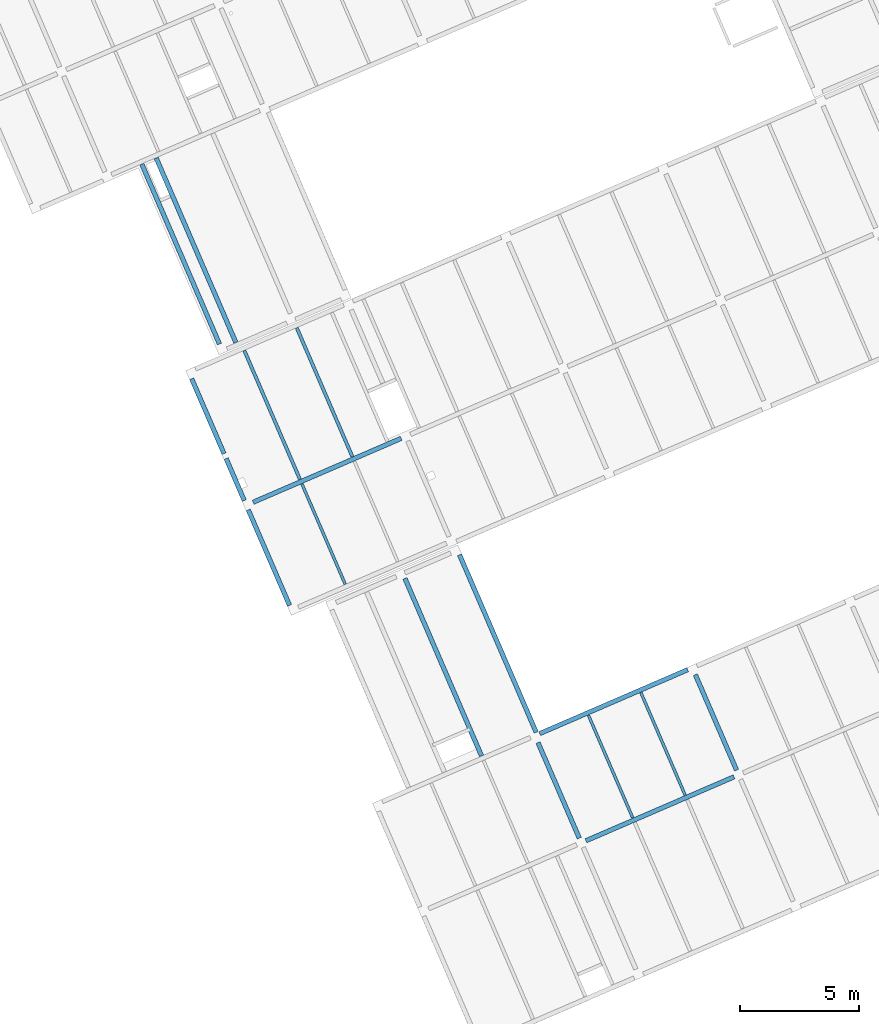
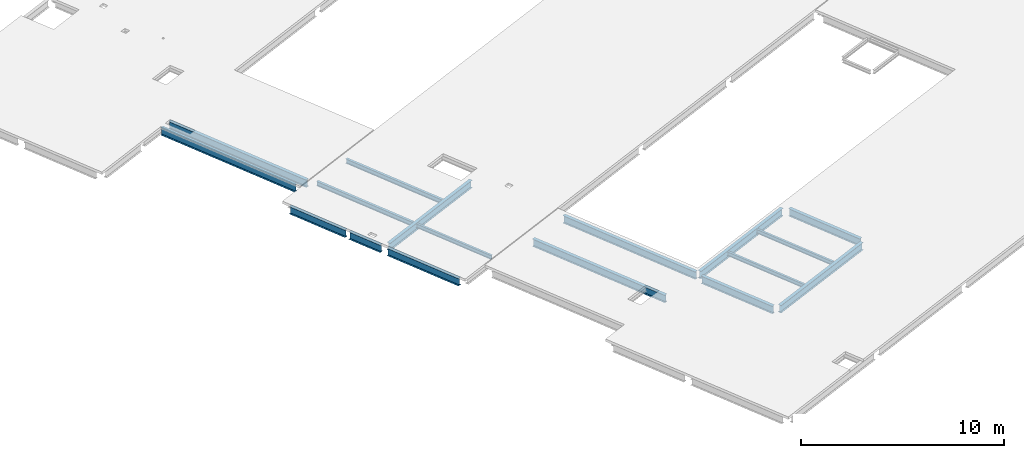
# One storey, part 2 of 15: 17 beams.
"""IFC4 building model written with IfcOpenShell, lengths in metres."""

from ifc_helpers import new_model, entity, si_unit, converted_unit, derived_unit, direction, frame, origin, place, context, subcontext, project, spatial, line, arc, indexed_curve, outline, extrude, source, transform, mapped, material, type_object, type_shapes, element, save


model = new_model("IFC4")

# Units and contexts
model_context = context("Model", 3, precision=1e-05, world=origin(), true_north=direction((6.12323399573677e-17, 1.0)))
body_context = subcontext(model_context, "Body", "Model", "MODEL_VIEW")
ifc_project = project(units=[si_unit("LENGTHUNIT", "METRE"), si_unit("AREAUNIT", "SQUARE_METRE"), si_unit("VOLUMEUNIT", "CUBIC_METRE"), converted_unit("PLANEANGLEUNIT", "DEGREE", entity("IfcPlaneAngleMeasure", 0.0174532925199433), si_unit("PLANEANGLEUNIT", "RADIAN"), dimensions=[0, 0, 0, 0, 0, 0, 0]), si_unit("MASSUNIT", "GRAM", prefix="KILO"), derived_unit("MOMENTOFINERTIAUNIT", [(si_unit("LENGTHUNIT", "METRE"), 4)]), derived_unit("LINEARFORCEUNIT", [(si_unit("MASSUNIT", "GRAM", prefix="KILO"), 1), (si_unit("TIMEUNIT", "SECOND"), -2)]), derived_unit("WARPINGCONSTANTUNIT", [(si_unit("LENGTHUNIT", "METRE"), 6)]), derived_unit("THERMALTRANSMITTANCEUNIT", [(si_unit("MASSUNIT", "GRAM", prefix="KILO"), 1), (si_unit("THERMODYNAMICTEMPERATUREUNIT", "KELVIN"), -1), (si_unit("TIMEUNIT", "SECOND"), -3)]), derived_unit("USERDEFINED", [(si_unit("MASSUNIT", "GRAM", prefix="KILO"), 1), (si_unit("TIMEUNIT", "SECOND"), -2), (si_unit("THERMODYNAMICTEMPERATUREUNIT", "KELVIN"), -1)]), derived_unit("THERMALRESISTANCEUNIT", [(si_unit("MASSUNIT", "GRAM", prefix="KILO"), -1), (si_unit("TIMEUNIT", "SECOND"), 3), (si_unit("THERMODYNAMICTEMPERATUREUNIT", "KELVIN"), 1)])], contexts=[model_context])

# Site, building, storey
site_placement = place(None, origin())
site = spatial("IfcSite", under=ifc_project, at=site_placement, Name="Default", CompositionType="ELEMENT")
building_placement = place(site_placement, frame((12.6613425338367, -82.5732315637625, 317.15), z_axis=(0.0, 0.0, 1.0), x_axis=(-0.396377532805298, 0.918087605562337, 0.0)))
building = spatial("IfcBuilding", under=site, at=building_placement, Name="CESFAM Coyhaique", CompositionType="ELEMENT")
storey_placement = place(building_placement, frame((0.0, 0.0, 8.45000000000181)))
storey = spatial("IfcBuildingStorey", under=building, at=storey_placement, Name="Nivel 3", CompositionType="ELEMENT", Elevation=8.45000000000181)

# Beams
ifc_material = material(Name="Steel, 45-345", Category="Metal")
beam_type_1 = type_object("IfcBeamType", Name="M_W Shapes:W450X190mm", PredefinedType="BEAM", material=ifc_material)
shared_shape_1 = source(origin(), body_context, "Body", "SweptSolid", [
    extrude(outline(indexed_curve([(-0.224999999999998, -0.0950000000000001), (-0.215349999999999, -0.0949999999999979), (-0.215349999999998, -0.0105699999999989), (-0.213109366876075, -0.00516063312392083), (-0.207699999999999, -0.00291999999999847), (0.207700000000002, -0.00291999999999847), (0.213109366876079, -0.00516063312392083), (0.215350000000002, -0.0105699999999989), (0.215350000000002, -0.0950000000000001), (0.225000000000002, -0.0950000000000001), (0.225000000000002, 0.0950000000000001), (0.215350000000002, 0.0950000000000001), (0.215350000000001, 0.0105700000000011), (0.213109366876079, 0.00516063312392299), (0.207700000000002, 0.00292000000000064), (-0.207699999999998, 0.00292000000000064), (-0.213109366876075, 0.00516063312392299), (-0.215349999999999, 0.0105700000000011), (-0.215349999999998, 0.0950000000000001), (-0.224999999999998, 0.0950000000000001)], segments=[line(1, 2, 3), arc(3, 4, 5), line(5, 6), arc(6, 7, 8), line(8, 9, 10, 11, 12, 13), arc(13, 14, 15), line(15, 16), arc(16, 17, 18), line(18, 19, 20, 1)], self_intersect=False)), frame((10.3815534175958, 10.0028504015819, 8.07500000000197), z_axis=(1.0, 0.0, 0.0), x_axis=(0.0, 0.0, -1.0)), (0.0, 0.0, 1.0), 4.3746),
])
type_shapes(beam_type_1, [shared_shape_1])
beam_1_placement = place(storey_placement, frame((0.0, 0.0, -8.45000000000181)))
element("IfcBeam", 1, at=beam_1_placement, inside=storey, type_object=beam_type_1, Name="M_W Shapes:W450X190mm", ObjectType="M_W Shapes:W450X190mm", PredefinedType="BEAM", context=body_context, shape_type="MappedRepresentation", body=[
    mapped(shared_shape_1, transform((0.0, 0.0, 0.0), scale=1.0)),
])
beam_type_2 = type_object("IfcBeamType", Name="M_W Shapes:W450X190mm", PredefinedType="BEAM", material=ifc_material)
shared_shape_2 = source(origin(), body_context, "Body", "SweptSolid", [
    extrude(outline(indexed_curve([(-0.224999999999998, -0.0950000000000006), (-0.215349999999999, -0.0950000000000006), (-0.215349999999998, -0.0105700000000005), (-0.213109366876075, -0.00516063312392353), (-0.207699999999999, -0.00292000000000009), (0.207700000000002, -0.00292000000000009), (0.213109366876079, -0.00516063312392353), (0.215350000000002, -0.0105700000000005), (0.215350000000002, -0.0950000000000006), (0.225000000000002, -0.0950000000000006), (0.225000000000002, 0.0950000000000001), (0.215350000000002, 0.0950000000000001), (0.215350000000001, 0.01057), (0.213109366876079, 0.00516063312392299), (0.207700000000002, 0.00291999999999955), (-0.207699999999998, 0.00291999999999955), (-0.213109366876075, 0.00516063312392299), (-0.215349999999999, 0.01057), (-0.215349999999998, 0.094999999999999), (-0.224999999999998, 0.0949999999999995)], segments=[line(1, 2, 3), arc(3, 4, 5), line(5, 6), arc(6, 7, 8), line(8, 9, 10, 11, 12, 13), arc(13, 14, 15), line(15, 16), arc(16, 17, 18), line(18, 19, 20, 1)], self_intersect=False)), frame((10.3815534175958, 2.8028504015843, 8.07500000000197), z_axis=(1.0, 0.0, 0.0), x_axis=(0.0, 0.0, -1.0)), (0.0, 0.0, 1.0), 4.3746),
])
type_shapes(beam_type_2, [shared_shape_2])
beam_2_placement = place(storey_placement, frame((0.0, 0.0, -8.45000000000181)))
element("IfcBeam", 2, at=beam_2_placement, inside=storey, type_object=beam_type_2, Name="M_W Shapes:W450X190mm", ObjectType="M_W Shapes:W450X190mm", PredefinedType="BEAM", context=body_context, shape_type="MappedRepresentation", body=[
    mapped(shared_shape_2, transform((0.0, 0.0, 0.0), scale=1.0)),
])
beam_type_3 = type_object("IfcBeamType", Name="M_W Shapes:W450X190mm", PredefinedType="BEAM", material=ifc_material)
shared_shape_3 = source(origin(), body_context, "Body", "SweptSolid", [
    extrude(outline(indexed_curve([(-0.0950000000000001, -0.225000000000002), (0.0950000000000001, -0.225000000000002), (0.0950000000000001, -0.215350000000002), (0.0105700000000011, -0.215350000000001), (0.00516063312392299, -0.213109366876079), (0.00292000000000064, -0.207700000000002), (0.00292000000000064, 0.207699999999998), (0.00516063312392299, 0.213109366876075), (0.0105700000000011, 0.215349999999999), (0.0950000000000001, 0.215349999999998), (0.0950000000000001, 0.224999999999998), (-0.0950000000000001, 0.224999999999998), (-0.0949999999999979, 0.215349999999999), (-0.0105699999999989, 0.215349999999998), (-0.00516063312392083, 0.213109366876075), (-0.00291999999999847, 0.207699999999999), (-0.00291999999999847, -0.207700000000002), (-0.00516063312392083, -0.213109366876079), (-0.0105699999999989, -0.215350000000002), (-0.0950000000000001, -0.215350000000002)], segments=[line(1, 2, 3, 4), arc(4, 5, 6), line(6, 7), arc(7, 8, 9), line(9, 10, 11, 12, 13, 14), arc(14, 15, 16), line(16, 17), arc(17, 18, 19), line(19, 20, 1)], self_intersect=False)), frame((10.1688534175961, 3.0155504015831, 8.07500000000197), z_axis=(0.0, 1.0, 0.0), x_axis=(-1.0, 0.0, 0.0)), (0.0, 0.0, 1.0), 6.7746),
])
type_shapes(beam_type_3, [shared_shape_3])
beam_3_placement = place(storey_placement, frame((0.0, 0.0, -8.45000000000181)))
element("IfcBeam", 3, at=beam_3_placement, inside=storey, type_object=beam_type_3, Name="M_W Shapes:W450X190mm", ObjectType="M_W Shapes:W450X190mm", PredefinedType="BEAM", context=body_context, shape_type="MappedRepresentation", body=[
    mapped(shared_shape_3, transform((0.0, 0.0, 0.0), scale=1.0)),
])
beam_type_4 = type_object("IfcBeamType", Name="M_W Shapes:W450X190mm", PredefinedType="BEAM", material=ifc_material)
shared_shape_4 = source(origin(), body_context, "Body", "SweptSolid", [
    extrude(outline(indexed_curve([(-0.0950000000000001, -0.225000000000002), (0.0950000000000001, -0.225000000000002), (0.0950000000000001, -0.215350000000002), (0.0105700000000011, -0.215350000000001), (0.00516063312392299, -0.213109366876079), (0.00292000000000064, -0.207700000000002), (0.00292000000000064, 0.207699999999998), (0.00516063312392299, 0.213109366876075), (0.0105700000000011, 0.215349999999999), (0.0950000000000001, 0.215349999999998), (0.0950000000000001, 0.224999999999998), (-0.0950000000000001, 0.224999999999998), (-0.0949999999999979, 0.215349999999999), (-0.0105699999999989, 0.215349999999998), (-0.00516063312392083, 0.213109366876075), (-0.00291999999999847, 0.207699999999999), (-0.00291999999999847, -0.207700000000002), (-0.00516063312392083, -0.213109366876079), (-0.0105699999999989, -0.215350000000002), (-0.0950000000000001, -0.215350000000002)], segments=[line(1, 2, 3, 4), arc(4, 5, 6), line(6, 7), arc(7, 8, 9), line(9, 10, 11, 12, 13, 14), arc(14, 15, 16), line(16, 17), arc(17, 18, 19), line(19, 20, 1)], self_intersect=False)), frame((15.0738534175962, 3.0155504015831, 8.07500000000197), z_axis=(0.0, 1.0, 0.0), x_axis=(-1.0, 0.0, 0.0)), (0.0, 0.0, 1.0), 6.7746),
])
type_shapes(beam_type_4, [shared_shape_4])
beam_4_placement = place(storey_placement, frame((0.0, 0.0, -8.45000000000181)))
element("IfcBeam", 4, at=beam_4_placement, inside=storey, type_object=beam_type_4, Name="M_W Shapes:W450X190mm", ObjectType="M_W Shapes:W450X190mm", PredefinedType="BEAM", context=body_context, shape_type="MappedRepresentation", body=[
    mapped(shared_shape_4, transform((0.0, 0.0, 0.0), scale=1.0)),
])
beam_type_5 = type_object("IfcBeamType", Name="M_W Shapes:W450X190mm", PredefinedType="BEAM", material=ifc_material)
shared_shape_5 = source(origin(), body_context, "Body", "SweptSolid", [
    extrude(outline(indexed_curve([(-0.224999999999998, -0.0950000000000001), (-0.215349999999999, -0.0949999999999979), (-0.215349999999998, -0.0105699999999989), (-0.213109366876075, -0.00516063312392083), (-0.207699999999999, -0.00291999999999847), (0.207700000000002, -0.00291999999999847), (0.213109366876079, -0.00516063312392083), (0.215350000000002, -0.0105699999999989), (0.215350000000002, -0.0950000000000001), (0.225000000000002, -0.0950000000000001), (0.225000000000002, 0.0950000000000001), (0.215350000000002, 0.0950000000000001), (0.215350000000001, 0.0105700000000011), (0.213109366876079, 0.00516063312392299), (0.207700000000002, 0.00292000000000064), (-0.207699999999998, 0.00292000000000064), (-0.213109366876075, 0.00516063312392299), (-0.215349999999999, 0.0105700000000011), (-0.215349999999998, 0.0950000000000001), (-0.224999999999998, 0.0950000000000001)], segments=[line(1, 2, 3), arc(3, 4, 5), line(5, 6), arc(6, 7, 8), line(8, 9, 10, 11, 12, 13), arc(13, 14, 15), line(15, 16), arc(16, 17, 18), line(18, 19, 20, 1)], self_intersect=False)), frame((15.1815534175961, 9.9028504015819, 8.07500000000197), z_axis=(1.0, 0.0, 0.0), x_axis=(0.0, 0.0, -1.0)), (0.0, 0.0, 1.0), 8.1246),
])
type_shapes(beam_type_5, [shared_shape_5])
beam_5_placement = place(storey_placement, frame((0.0, 0.0, -8.45000000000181)))
element("IfcBeam", 5, at=beam_5_placement, inside=storey, type_object=beam_type_5, Name="M_W Shapes:W450X190mm", ObjectType="M_W Shapes:W450X190mm", PredefinedType="BEAM", context=body_context, shape_type="MappedRepresentation", body=[
    mapped(shared_shape_5, transform((0.0, 0.0, 0.0), scale=1.0)),
])
beam_type_6 = type_object("IfcBeamType", Name="M_W Shapes:W450X190mm", PredefinedType="BEAM", material=ifc_material)
shared_shape_6 = source(origin(), body_context, "Body", "SweptSolid", [
    extrude(outline(indexed_curve([(-0.224999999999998, -0.0950000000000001), (-0.215349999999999, -0.0949999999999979), (-0.215349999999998, -0.0105699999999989), (-0.213109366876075, -0.00516063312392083), (-0.207699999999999, -0.00291999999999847), (0.207700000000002, -0.00291999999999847), (0.213109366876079, -0.00516063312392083), (0.215350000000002, -0.0105699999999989), (0.215350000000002, -0.0950000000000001), (0.225000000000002, -0.0950000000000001), (0.225000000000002, 0.0950000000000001), (0.215350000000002, 0.0950000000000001), (0.215350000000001, 0.0105700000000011), (0.213109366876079, 0.00516063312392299), (0.207700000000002, 0.00292000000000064), (-0.207699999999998, 0.00292000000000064), (-0.213109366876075, 0.00516063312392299), (-0.215349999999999, 0.0105700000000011), (-0.215349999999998, 0.0950000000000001), (-0.224999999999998, 0.0950000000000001)], segments=[line(1, 2, 3), arc(3, 4, 5), line(5, 6), arc(6, 7, 8), line(8, 9, 10, 11, 12, 13), arc(13, 14, 15), line(15, 16), arc(16, 17, 18), line(18, 19, 20, 1)], self_intersect=False)), frame((24.1815534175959, 17.3028504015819, 8.07500000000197), z_axis=(1.0, 0.0, 0.0), x_axis=(0.0, 0.0, -1.0)), (0.0, 0.0, 1.0), 4.3746),
])
type_shapes(beam_type_6, [shared_shape_6])
beam_6_placement = place(storey_placement, frame((0.0, 0.0, -8.45000000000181)))
element("IfcBeam", 6, at=beam_6_placement, inside=storey, type_object=beam_type_6, Name="M_W Shapes:W450X190mm", ObjectType="M_W Shapes:W450X190mm", PredefinedType="BEAM", context=body_context, shape_type="MappedRepresentation", body=[
    mapped(shared_shape_6, transform((0.0, 0.0, 0.0), scale=1.0)),
])
beam_type_7 = type_object("IfcBeamType", Name="M_W Shapes:W450X190mm", PredefinedType="BEAM", material=ifc_material)
shared_shape_7 = source(origin(), body_context, "Body", "SweptSolid", [
    extrude(outline(indexed_curve([(-0.224999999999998, -0.0950000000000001), (-0.215349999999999, -0.0949999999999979), (-0.215349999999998, -0.0105699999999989), (-0.213109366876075, -0.00516063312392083), (-0.207699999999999, -0.00291999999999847), (0.207700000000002, -0.00291999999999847), (0.213109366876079, -0.00516063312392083), (0.215350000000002, -0.0105699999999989), (0.215350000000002, -0.0950000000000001), (0.225000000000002, -0.0950000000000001), (0.225000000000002, 0.0950000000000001), (0.215350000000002, 0.0950000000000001), (0.215350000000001, 0.0105700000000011), (0.213109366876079, 0.00516063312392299), (0.207700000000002, 0.00292000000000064), (-0.207699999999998, 0.00292000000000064), (-0.213109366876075, 0.00516063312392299), (-0.215349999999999, 0.0105700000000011), (-0.215349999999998, 0.0950000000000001), (-0.224999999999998, 0.0950000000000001)], segments=[line(1, 2, 3), arc(3, 4, 5), line(5, 6), arc(6, 7, 8), line(8, 9, 10, 11, 12, 13), arc(13, 14, 15), line(15, 16), arc(16, 17, 18), line(18, 19, 20, 1)], self_intersect=False)), frame((28.9815534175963, 17.3028504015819, 8.07500000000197), z_axis=(1.0, 0.0, 0.0), x_axis=(0.0, 0.0, -1.0)), (0.0, 0.0, 1.0), 1.9246),
])
type_shapes(beam_type_7, [shared_shape_7])
beam_7_placement = place(storey_placement, frame((0.0, 0.0, -8.45000000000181)))
element("IfcBeam", 7, at=beam_7_placement, inside=storey, type_object=beam_type_7, Name="M_W Shapes:W450X190mm", ObjectType="M_W Shapes:W450X190mm", PredefinedType="BEAM", context=body_context, shape_type="MappedRepresentation", body=[
    mapped(shared_shape_7, transform((0.0, 0.0, 0.0), scale=1.0)),
])
beam_type_8 = type_object("IfcBeamType", Name="M_W Shapes:W450X190mm", PredefinedType="BEAM", material=ifc_material)
shared_shape_8 = source(origin(), body_context, "Body", "SweptSolid", [
    extrude(outline(indexed_curve([(-0.224999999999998, -0.0950000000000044), (-0.215349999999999, -0.0950000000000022), (-0.215349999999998, -0.0105700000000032), (-0.213109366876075, -0.00516063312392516), (-0.207699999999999, -0.0029200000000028), (0.207700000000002, -0.0029200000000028), (0.213109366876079, -0.00516063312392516), (0.215350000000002, -0.0105700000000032), (0.215350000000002, -0.0950000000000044), (0.225000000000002, -0.0950000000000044), (0.225000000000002, 0.0949999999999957), (0.215350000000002, 0.0949999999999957), (0.215350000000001, 0.0105699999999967), (0.213109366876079, 0.00516063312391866), (0.207700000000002, 0.0029199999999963), (-0.207699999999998, 0.0029199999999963), (-0.213109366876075, 0.00516063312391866), (-0.215349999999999, 0.0105699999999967), (-0.215349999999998, 0.0949999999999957), (-0.224999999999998, 0.0949999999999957)], segments=[line(1, 2, 3), arc(3, 4, 5), line(5, 6), arc(6, 7, 8), line(8, 9, 10, 11, 12, 13), arc(13, 14, 15), line(15, 16), arc(16, 17, 18), line(18, 19, 20, 1)], self_intersect=False)), frame((35.4315534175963, 15.6528492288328, 8.07500000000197), z_axis=(1.0, 0.0, 0.0), x_axis=(0.0, 0.0, -1.0)), (0.0, 0.0, 1.0), 8.2296),
])
type_shapes(beam_type_8, [shared_shape_8])
beam_8_placement = place(storey_placement, frame((0.0, 0.0, -8.45000000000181)))
element("IfcBeam", 8, at=beam_8_placement, inside=storey, type_object=beam_type_8, Name="M_W Shapes:W450X190mm", ObjectType="M_W Shapes:W450X190mm", PredefinedType="BEAM", context=body_context, shape_type="MappedRepresentation", body=[
    mapped(shared_shape_8, transform((0.0, 0.0, 0.0), scale=1.0)),
])
beam_type_9 = type_object("IfcBeamType", Name="M_W Shapes:W450X190mm", PredefinedType="BEAM", material=ifc_material)
shared_shape_9 = source(origin(), body_context, "Body", "SweptSolid", [
    extrude(outline(indexed_curve([(-0.0949999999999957, -0.225000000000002), (0.0950000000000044, -0.225000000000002), (0.0950000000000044, -0.215350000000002), (0.0105700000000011, -0.215350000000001), (0.00516063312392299, -0.21310936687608), (0.0029200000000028, -0.207700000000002), (0.0029200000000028, 0.207699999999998), (0.00516063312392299, 0.213109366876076), (0.0105700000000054, 0.215349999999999), (0.0950000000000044, 0.215349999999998), (0.0950000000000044, 0.224999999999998), (-0.0949999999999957, 0.224999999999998), (-0.0949999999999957, 0.215349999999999), (-0.0105699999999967, 0.215349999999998), (-0.00516063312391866, 0.213109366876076), (-0.00291999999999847, 0.207699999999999), (-0.00291999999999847, -0.207700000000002), (-0.00516063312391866, -0.21310936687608), (-0.0105699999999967, -0.215350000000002), (-0.0949999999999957, -0.215350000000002)], segments=[line(1, 2, 3, 4), arc(4, 5, 6), line(6, 7), arc(7, 8, 9), line(9, 10, 11, 12, 13, 14), arc(14, 15, 16), line(16, 17), arc(17, 18, 19), line(19, 20, 1)], self_intersect=False)), frame((28.7688534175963, 10.2155504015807, 8.07500000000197), z_axis=(0.0, 1.0, 0.0), x_axis=(-1.0, 0.0, 0.0)), (0.0, 0.0, 1.0), 6.7746),
])
type_shapes(beam_type_9, [shared_shape_9])
beam_9_placement = place(storey_placement, frame((0.0, 0.0, -8.45000000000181)))
element("IfcBeam", 9, at=beam_9_placement, inside=storey, type_object=beam_type_9, Name="M_W Shapes:W450X190mm", ObjectType="M_W Shapes:W450X190mm", PredefinedType="BEAM", context=body_context, shape_type="MappedRepresentation", body=[
    mapped(shared_shape_9, transform((0.0, 0.0, 0.0), scale=1.0)),
])
beam_type_10 = type_object("IfcBeamType", Name="M_W Shapes:W450X190mm", PredefinedType="BEAM", material=ifc_material)
shared_shape_10 = source(origin(), body_context, "Body", "SweptSolid", [
    extrude(outline(indexed_curve([(-0.224999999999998, -0.0950000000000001), (-0.215349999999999, -0.0950000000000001), (-0.215349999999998, -0.0105699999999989), (-0.213109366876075, -0.00516063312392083), (-0.207699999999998, -0.00291999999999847), (0.207700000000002, -0.00291999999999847), (0.213109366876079, -0.00516063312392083), (0.215350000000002, -0.0105699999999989), (0.215350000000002, -0.0950000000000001), (0.225000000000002, -0.0950000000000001), (0.225000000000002, 0.0950000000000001), (0.215350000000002, 0.0950000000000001), (0.215350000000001, 0.0105700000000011), (0.213109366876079, 0.00516063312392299), (0.207700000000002, 0.00292000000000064), (-0.207699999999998, 0.00292000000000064), (-0.213109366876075, 0.00516063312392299), (-0.215349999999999, 0.0105700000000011), (-0.215349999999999, 0.0950000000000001), (-0.224999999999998, 0.0950000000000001)], segments=[line(1, 2, 3), arc(3, 4, 5), line(5, 6), arc(6, 7, 8), line(8, 9, 10, 11, 12, 13), arc(13, 14, 15), line(15, 16), arc(16, 17, 18), line(18, 19, 20, 1)], self_intersect=False)), frame((31.1315534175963, 17.3028504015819, 8.07500000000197), z_axis=(1.0, 0.0, 0.0), x_axis=(0.0, 0.0, -1.0)), (0.0, 0.0, 1.0), 3.4246),
])
type_shapes(beam_type_10, [shared_shape_10])
beam_10_placement = place(storey_placement, frame((0.0, 0.0, -8.45000000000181)))
element("IfcBeam", 10, at=beam_10_placement, inside=storey, type_object=beam_type_10, Name="M_W Shapes:W450X190mm", ObjectType="M_W Shapes:W450X190mm", PredefinedType="BEAM", context=body_context, shape_type="MappedRepresentation", body=[
    mapped(shared_shape_10, transform((0.0, 0.0, 0.0), scale=1.0)),
])
beam_type_11 = type_object("IfcBeamType", Name="M_W Shapes:W240X120mm", PredefinedType="BEAM", material=ifc_material)
shared_shape_11 = source(origin(), body_context, "Body", "SweptSolid", [
    extrude(outline(indexed_curve([(-0.12, -0.0599999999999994), (-0.110350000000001, -0.0599999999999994), (-0.110350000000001, -0.0105699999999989), (-0.108109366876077, -0.00516063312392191), (-0.1027, -0.00291999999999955), (0.102699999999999, -0.00291999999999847), (0.108109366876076, -0.00516063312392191), (0.110349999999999, -0.0105699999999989), (0.110349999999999, -0.0599999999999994), (0.12, -0.0599999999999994), (0.12, 0.0600000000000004), (0.110349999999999, 0.0600000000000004), (0.11035, 0.0105700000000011), (0.108109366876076, 0.00516063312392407), (0.102699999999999, 0.00292000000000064), (-0.1027, 0.00292000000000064), (-0.108109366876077, 0.00516063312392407), (-0.110350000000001, 0.0105700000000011), (-0.110350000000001, 0.0600000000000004), (-0.12, 0.0600000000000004)], segments=[line(1, 2, 3), arc(3, 4, 5), line(5, 6), arc(6, 7, 8), line(8, 9, 10, 11, 12, 13), arc(13, 14, 15), line(15, 16), arc(16, 17, 18), line(18, 19, 20, 1)], self_intersect=False)), frame((10.2765534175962, 7.60285040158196, 8.18000000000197), z_axis=(1.0, 0.0, 0.0), x_axis=(0.0, 0.0, -1.0)), (0.0, 0.0, 1.0), 4.6896),
])
type_shapes(beam_type_11, [shared_shape_11])
beam_11_placement = place(storey_placement, frame((0.0, 0.0, -8.45000000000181)))
element("IfcBeam", 11, at=beam_11_placement, inside=storey, type_object=beam_type_11, Name="M_W Shapes:W240X120mm", ObjectType="M_W Shapes:W240X120mm", PredefinedType="BEAM", context=body_context, shape_type="MappedRepresentation", body=[
    mapped(shared_shape_11, transform((0.0, 0.0, 0.0), scale=1.0)),
])
beam_type_12 = type_object("IfcBeamType", Name="M_W Shapes:W240X120mm", PredefinedType="BEAM", material=ifc_material)
shared_shape_12 = source(origin(), body_context, "Body", "SweptSolid", [
    extrude(outline(indexed_curve([(-0.12, -0.0599999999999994), (-0.110350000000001, -0.0599999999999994), (-0.110350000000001, -0.0105699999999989), (-0.108109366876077, -0.00516063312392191), (-0.1027, -0.00291999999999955), (0.102699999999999, -0.00291999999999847), (0.108109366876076, -0.00516063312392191), (0.110349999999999, -0.0105699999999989), (0.110349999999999, -0.0599999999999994), (0.12, -0.0599999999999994), (0.12, 0.0600000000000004), (0.110349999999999, 0.0600000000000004), (0.11035, 0.0105700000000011), (0.108109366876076, 0.00516063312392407), (0.102699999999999, 0.00292000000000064), (-0.1027, 0.00292000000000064), (-0.108109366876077, 0.00516063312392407), (-0.110350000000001, 0.0105700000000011), (-0.110350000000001, 0.0600000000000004), (-0.12, 0.0600000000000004)], segments=[line(1, 2, 3), arc(3, 4, 5), line(5, 6), arc(6, 7, 8), line(8, 9, 10, 11, 12, 13), arc(13, 14, 15), line(15, 16), arc(16, 17, 18), line(18, 19, 20, 1)], self_intersect=False)), frame((10.2765534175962, 5.20285040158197, 8.18000000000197), z_axis=(1.0, 0.0, 0.0), x_axis=(0.0, 0.0, -1.0)), (0.0, 0.0, 1.0), 4.6896),
])
type_shapes(beam_type_12, [shared_shape_12])
beam_12_placement = place(storey_placement, frame((0.0, 0.0, -8.45000000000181)))
element("IfcBeam", 12, at=beam_12_placement, inside=storey, type_object=beam_type_12, Name="M_W Shapes:W240X120mm", ObjectType="M_W Shapes:W240X120mm", PredefinedType="BEAM", context=body_context, shape_type="MappedRepresentation", body=[
    mapped(shared_shape_12, transform((0.0, 0.0, 0.0), scale=1.0)),
])
beam_type_13 = type_object("IfcBeamType", Name="M_W Shapes:W450X190mm", PredefinedType="BEAM", material=ifc_material)
shared_shape_13 = source(origin(), body_context, "Body", "SweptSolid", [
    extrude(outline(indexed_curve([(-0.224999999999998, -0.0950000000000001), (-0.215349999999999, -0.0949999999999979), (-0.215349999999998, -0.0105699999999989), (-0.213109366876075, -0.00516063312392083), (-0.207699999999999, -0.00291999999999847), (0.207700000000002, -0.00291999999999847), (0.213109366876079, -0.00516063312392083), (0.215350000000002, -0.0105699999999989), (0.215350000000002, -0.0950000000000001), (0.225000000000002, -0.0950000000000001), (0.225000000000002, 0.0950000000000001), (0.215350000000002, 0.0950000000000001), (0.215350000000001, 0.0105700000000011), (0.213109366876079, 0.00516063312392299), (0.207700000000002, 0.00292000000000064), (-0.207699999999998, 0.00292000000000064), (-0.213109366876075, 0.00516063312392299), (-0.215349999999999, 0.0105700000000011), (-0.215349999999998, 0.0950000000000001), (-0.224999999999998, 0.0950000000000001)], segments=[line(1, 2, 3), arc(3, 4, 5), line(5, 6), arc(6, 7, 8), line(8, 9, 10, 11, 12, 13), arc(13, 14, 15), line(15, 16), arc(16, 17, 18), line(18, 19, 20, 1)], self_intersect=False)), frame((15.1815534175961, 12.4028519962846, 8.07500000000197), z_axis=(1.0, 0.0, 0.0), x_axis=(0.0, 0.0, -1.0)), (0.0, 0.0, 1.0), 8.1246),
])
type_shapes(beam_type_13, [shared_shape_13])
beam_13_placement = place(storey_placement, frame((0.0, 0.0, -8.45000000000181)))
element("IfcBeam", 13, at=beam_13_placement, inside=storey, type_object=beam_type_13, Name="M_W Shapes:W450X190mm", ObjectType="M_W Shapes:W450X190mm", PredefinedType="BEAM", context=body_context, shape_type="MappedRepresentation", body=[
    mapped(shared_shape_13, transform((0.0, 0.0, 0.0), scale=1.0)),
])
beam_type_14 = type_object("IfcBeamType", Name="M_W Shapes:W270X140mm", PredefinedType="BEAM", material=ifc_material)
shared_shape_14 = source(origin(), body_context, "Body", "SweptSolid", [
    extrude(outline(indexed_curve([(-0.135000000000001, -0.0699999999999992), (-0.125350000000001, -0.0699999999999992), (-0.12535, -0.0105699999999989), (-0.123109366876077, -0.00516063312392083), (-0.117700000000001, -0.00291999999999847), (0.117699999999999, -0.00291999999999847), (0.123109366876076, -0.00516063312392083), (0.12535, -0.0105699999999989), (0.12535, -0.0699999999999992), (0.135, -0.0699999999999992), (0.135, 0.0700000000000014), (0.12535, 0.0700000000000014), (0.125349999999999, 0.0105700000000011), (0.123109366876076, 0.00516063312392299), (0.117699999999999, 0.00292000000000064), (-0.1177, 0.00292000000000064), (-0.123109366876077, 0.00516063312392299), (-0.125350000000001, 0.0105700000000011), (-0.125350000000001, 0.0699999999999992), (-0.135, 0.0699999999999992)], segments=[line(1, 2, 3), arc(3, 4, 5), line(5, 6), arc(6, 7, 8), line(8, 9, 10, 11, 12, 13), arc(13, 14, 15), line(15, 16), arc(16, 17, 18), line(18, 19, 20, 1)], self_intersect=False)), frame((28.8765534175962, 12.4027298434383, 8.16500000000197), z_axis=(1.0, 0.0, 0.0), x_axis=(0.0, 0.0, -1.0)), (0.0, 0.0, 1.0), 5.8896),
])
type_shapes(beam_type_14, [shared_shape_14])
beam_14_placement = place(storey_placement, frame((0.0, 0.0, -8.45000000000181)))
element("IfcBeam", 14, at=beam_14_placement, inside=storey, type_object=beam_type_14, Name="M_W Shapes:W270X140mm", ObjectType="M_W Shapes:W270X140mm", PredefinedType="BEAM", context=body_context, shape_type="MappedRepresentation", body=[
    mapped(shared_shape_14, transform((0.0, 0.0, 0.0), scale=1.0)),
])
beam_type_15 = type_object("IfcBeamType", Name="M_W Shapes:W270X140mm", PredefinedType="BEAM", material=ifc_material)
shared_shape_15 = source(origin(), body_context, "Body", "SweptSolid", [
    extrude(outline(indexed_curve([(-0.135000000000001, -0.0699999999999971), (-0.125350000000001, -0.0699999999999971), (-0.12535, -0.0105699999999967), (-0.123109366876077, -0.00516063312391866), (-0.117700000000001, -0.0029199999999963), (0.117699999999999, -0.0029199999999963), (0.123109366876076, -0.00516063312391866), (0.12535, -0.0105699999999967), (0.12535, -0.0699999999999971), (0.135, -0.0699999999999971), (0.135, 0.0700000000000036), (0.12535, 0.0700000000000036), (0.125349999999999, 0.0105700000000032), (0.123109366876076, 0.00516063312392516), (0.117699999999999, 0.0029200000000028), (-0.1177, 0.0029200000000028), (-0.123109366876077, 0.00516063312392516), (-0.125350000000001, 0.0105700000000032), (-0.125350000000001, 0.0700000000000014), (-0.135, 0.0700000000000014)], segments=[line(1, 2, 3), arc(3, 4, 5), line(5, 6), arc(6, 7, 8), line(8, 9, 10, 11, 12, 13), arc(13, 14, 15), line(15, 16), arc(16, 17, 18), line(18, 19, 20, 1)], self_intersect=False)), frame((28.8765534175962, 14.8025757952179, 8.16500000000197), z_axis=(1.0, 0.0, 0.0), x_axis=(0.0, 0.0, -1.0)), (0.0, 0.0, 1.0), 5.8896),
])
type_shapes(beam_type_15, [shared_shape_15])
beam_15_placement = place(storey_placement, frame((0.0, 0.0, -8.45000000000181)))
element("IfcBeam", 15, at=beam_15_placement, inside=storey, type_object=beam_type_15, Name="M_W Shapes:W270X140mm", ObjectType="M_W Shapes:W270X140mm", PredefinedType="BEAM", context=body_context, shape_type="MappedRepresentation", body=[
    mapped(shared_shape_15, transform((0.0, 0.0, 0.0), scale=1.0)),
])
beam_type_16 = type_object("IfcBeamType", Name="M_W Shapes:W240X120mm", PredefinedType="BEAM", material=ifc_material)
shared_shape_16 = source(origin(), body_context, "Body", "SweptSolid", [
    extrude(outline(indexed_curve([(-0.119999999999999, -0.0599999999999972), (-0.11035, -0.0599999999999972), (-0.110349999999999, -0.0105699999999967), (-0.108109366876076, -0.00516063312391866), (-0.102699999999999, -0.0029199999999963), (0.1027, -0.0029199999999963), (0.108109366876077, -0.00516063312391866), (0.11035, -0.0105699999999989), (0.110350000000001, -0.0599999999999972), (0.120000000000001, -0.0599999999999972), (0.120000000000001, 0.0600000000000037), (0.11035, 0.0600000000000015), (0.11035, 0.0105700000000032), (0.108109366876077, 0.00516063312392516), (0.102699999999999, 0.0029200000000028), (-0.102699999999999, 0.0029200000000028), (-0.108109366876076, 0.00516063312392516), (-0.11035, 0.0105700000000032), (-0.110349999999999, 0.0600000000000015), (-0.119999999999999, 0.0600000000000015)], segments=[line(1, 2, 3), arc(3, 4, 5), line(5, 6), arc(6, 7, 8), line(8, 9, 10, 11, 12, 13), arc(13, 14, 15), line(15, 16), arc(16, 17, 18), line(18, 19, 20, 1)], self_intersect=False)), frame((24.0765534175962, 14.8025757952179, 8.18000000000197), z_axis=(1.0, 0.0, 0.0), x_axis=(0.0, 0.0, -1.0)), (0.0, 0.0, 1.0), 4.5846),
])
type_shapes(beam_type_16, [shared_shape_16])
beam_16_placement = place(storey_placement, frame((0.0, 0.0, -8.45000000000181)))
element("IfcBeam", 16, at=beam_16_placement, inside=storey, type_object=beam_type_16, Name="M_W Shapes:W240X120mm", ObjectType="M_W Shapes:W240X120mm", PredefinedType="BEAM", context=body_context, shape_type="MappedRepresentation", body=[
    mapped(shared_shape_16, transform((0.0, 0.0, 0.0), scale=1.0)),
])
beam_type_17 = type_object("IfcBeamType", Name="M_W Shapes:W450X190mm", PredefinedType="BEAM", material=ifc_material)
shared_shape_17 = source(origin(), body_context, "Body", "SweptSolid", [
    extrude(outline(indexed_curve([(-0.224999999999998, -0.0949999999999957), (-0.215349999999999, -0.0949999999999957), (-0.215349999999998, -0.0105699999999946), (-0.213109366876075, -0.00516063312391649), (-0.207699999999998, -0.00291999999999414), (0.207700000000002, -0.00291999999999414), (0.213109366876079, -0.00516063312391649), (0.215350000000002, -0.0105699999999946), (0.215350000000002, -0.0949999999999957), (0.225000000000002, -0.0949999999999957), (0.225000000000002, 0.0950000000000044), (0.215350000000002, 0.0950000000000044), (0.215350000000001, 0.0105700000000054), (0.213109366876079, 0.00516063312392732), (0.207700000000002, 0.00292000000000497), (-0.207699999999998, 0.00292000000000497), (-0.213109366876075, 0.00516063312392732), (-0.215349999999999, 0.0105700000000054), (-0.215349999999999, 0.0950000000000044), (-0.224999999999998, 0.0950000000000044)], segments=[line(1, 2, 3), arc(3, 4, 5), line(5, 6), arc(6, 7, 8), line(8, 9, 10, 11, 12, 13), arc(13, 14, 15), line(15, 16), arc(16, 17, 18), line(18, 19, 20, 1)], self_intersect=False)), frame((35.2188534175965, 14.9958872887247, 8.07500000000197), z_axis=(1.0, 0.0, 0.0), x_axis=(0.0, 0.0, -1.0)), (0.0, 0.0, 1.0), 8.4423),
])
type_shapes(beam_type_17, [shared_shape_17])
beam_17_placement = place(storey_placement, frame((0.0, 0.0, -8.45000000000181)))
element("IfcBeam", 17, at=beam_17_placement, inside=storey, type_object=beam_type_17, Name="M_W Shapes:W450X190mm", ObjectType="M_W Shapes:W450X190mm", PredefinedType="BEAM", context=body_context, shape_type="MappedRepresentation", body=[
    mapped(shared_shape_17, transform((0.0, 0.0, 0.0), scale=1.0)),
])

save(model, "model.ifc")
